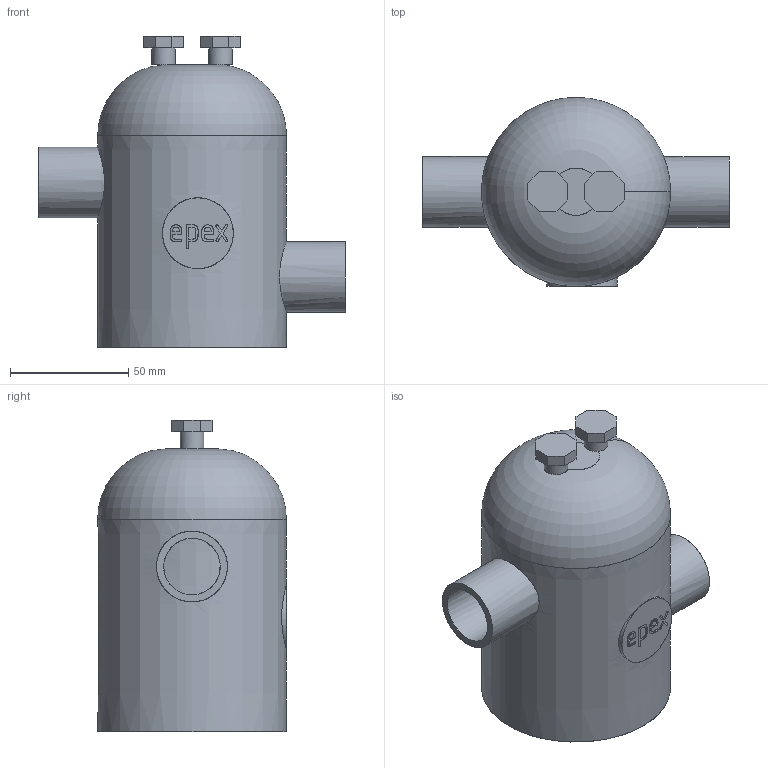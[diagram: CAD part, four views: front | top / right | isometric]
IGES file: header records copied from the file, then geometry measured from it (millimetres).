
Start section: Write IGES format                                    datakit 2008 (c)
Global section: file name: Unknown; native system: DATAKIT Converter; preprocessor: Unknown; author: Unknown; organization: Unknown; date: 950613.180003; units: millimetre
Bounding box: 130 x 80 x 132 mm (x, y, z)
Surface area: 47596.6 mm2 (no closed solid volume)
Topology: 0 solids, 0 shells, 66 faces, 382 edges, 378 vertices
Faces by surface type: bspline 33, extrusion 17, revolution 16
